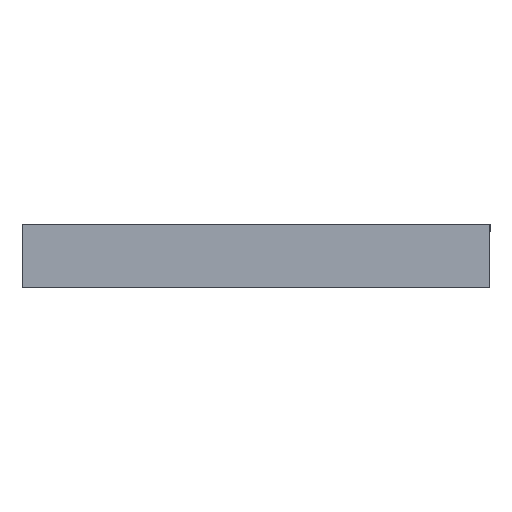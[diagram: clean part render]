
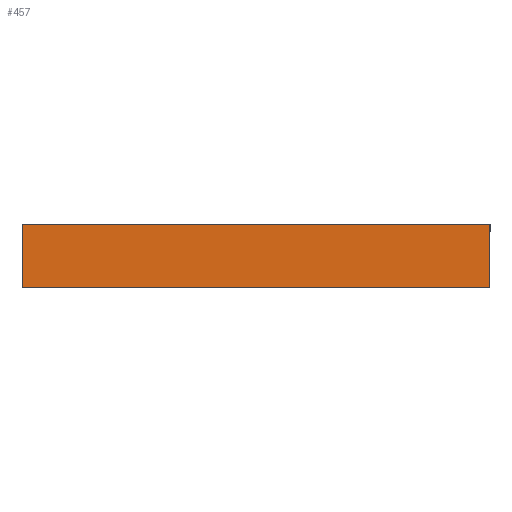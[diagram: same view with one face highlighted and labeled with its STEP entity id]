
A CAD part, left-side view. The second image highlights one B-rep face of the part: STEP entity #457.
In plain terms, the highlighted planar face has unit normal (-1, 0, 0).
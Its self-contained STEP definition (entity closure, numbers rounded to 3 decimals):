
#54 = AXIS2_PLACEMENT_3D ( 'NONE', #617, #608, #607 ) ;
#73 = EDGE_CURVE ( 'NONE', #720, #736, #217, .T. ) ;
#89 = EDGE_CURVE ( 'NONE', #741, #736, #197, .T. ) ;
#107 = EDGE_CURVE ( 'NONE', #711, #720, #169, .T. ) ;
#115 = EDGE_CURVE ( 'NONE', #711, #741, #161, .T. ) ;
#156 = FACE_OUTER_BOUND ( 'NONE', #330, .T. ) ;
#160 = VECTOR ( 'NONE', #635, 1000. ) ;
#161 = LINE ( 'NONE', #636, #160 ) ;
#168 = VECTOR ( 'NONE', #648, 1000. ) ;
#169 = LINE ( 'NONE', #649, #168 ) ;
#196 = VECTOR ( 'NONE', #692, 1000. ) ;
#197 = LINE ( 'NONE', #693, #196 ) ;
#216 = VECTOR ( 'NONE', #723, 1000. ) ;
#217 = LINE ( 'NONE', #725, #216 ) ;
#330 = EDGE_LOOP ( 'NONE', ( #411, #412, #413, #414 ) ) ;
#411 = ORIENTED_EDGE ( 'NONE', *, *, #89, .T. ) ;
#412 = ORIENTED_EDGE ( 'NONE', *, *, #73, .F. ) ;
#413 = ORIENTED_EDGE ( 'NONE', *, *, #107, .F. ) ;
#414 = ORIENTED_EDGE ( 'NONE', *, *, #115, .T. ) ;
#457 = ADVANCED_FACE ( 'NONE', ( #156 ), #620, .F. ) ;
#526 = CARTESIAN_POINT ( 'NONE',  ( -251., 479., 0. ) ) ;
#528 = CARTESIAN_POINT ( 'NONE',  ( -251., 0., 0. ) ) ;
#533 = CARTESIAN_POINT ( 'NONE',  ( -251., 0., 65. ) ) ;
#536 = CARTESIAN_POINT ( 'NONE',  ( -251., 479., 65. ) ) ;
#607 = DIRECTION ( 'NONE',  ( 0., 1., 0. ) ) ;
#608 = DIRECTION ( 'NONE',  ( 1., 0., 0. ) ) ;
#617 = CARTESIAN_POINT ( 'NONE',  ( -251., 0., 65. ) ) ;
#620 = PLANE ( 'NONE',  #54 ) ;
#635 = DIRECTION ( 'NONE',  ( 0., 0., -1. ) ) ;
#636 = CARTESIAN_POINT ( 'NONE',  ( -251., 479., 65. ) ) ;
#648 = DIRECTION ( 'NONE',  ( 0., -1., 0. ) ) ;
#649 = CARTESIAN_POINT ( 'NONE',  ( -251., 0., 65. ) ) ;
#692 = DIRECTION ( 'NONE',  ( 0., -1., 0. ) ) ;
#693 = CARTESIAN_POINT ( 'NONE',  ( -251., 0., 0. ) ) ;
#711 = VERTEX_POINT ( 'NONE', #536 ) ;
#720 = VERTEX_POINT ( 'NONE', #533 ) ;
#723 = DIRECTION ( 'NONE',  ( 0., 0., -1. ) ) ;
#725 = CARTESIAN_POINT ( 'NONE',  ( -251., 0., 65. ) ) ;
#736 = VERTEX_POINT ( 'NONE', #528 ) ;
#741 = VERTEX_POINT ( 'NONE', #526 ) ;
